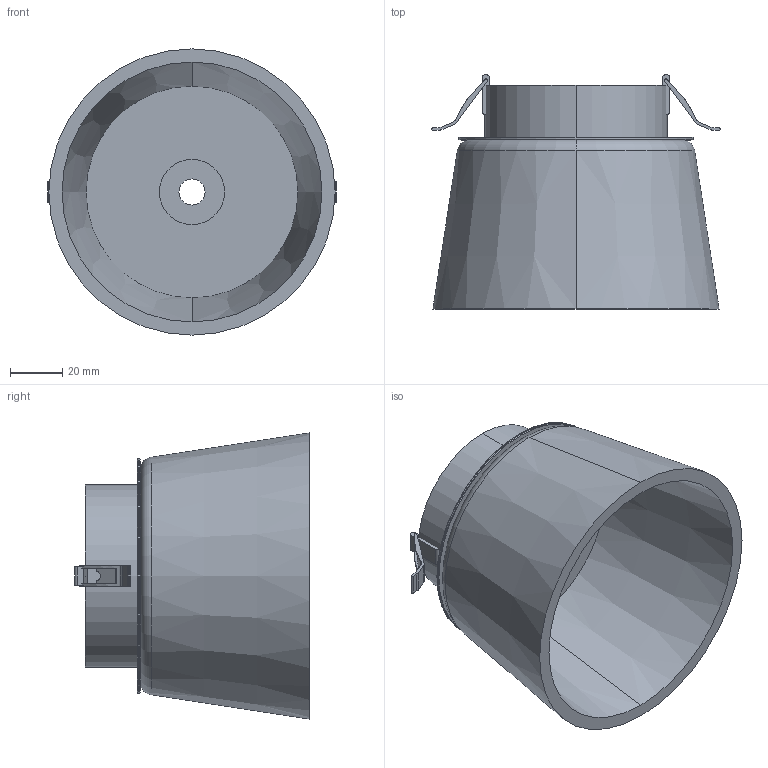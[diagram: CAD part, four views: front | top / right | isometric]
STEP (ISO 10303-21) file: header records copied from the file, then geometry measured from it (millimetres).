
FILE_DESCRIPTION (( 'STEP AP214' ), '1' );
FILE_NAME ('CUP_T0329.STEP', '2026-04-22T13:25:17', ( '' ), ( '' ), 'SwSTEP 2.0', 'SolidWorks 2023', '' );
FILE_SCHEMA (( 'AUTOMOTIVE_DESIGN' ));
Length unit declared in the file: millimetre
Products named in the file (3): CUP_T0329; EP1279
Assembly tree (2 placements, depth 2):
  CUP_T0329
    CUP_T0329
    EP1279
Bounding box: 110.86 x 90.1 x 110 mm (x, y, z)
Volume: 135193.3 mm3; surface area: 73204.7 mm2
Topology: 6 solids, 6 shells, 105 faces, 268 edges, 176 vertices
Faces by surface type: plane 55, cylinder 38, torus 6, cone 4, bspline 2
Entity records: 3386 total; most frequent: CARTESIAN_POINT 624, DIRECTION 576, ORIENTED_EDGE 536, EDGE_CURVE 268, AXIS2_PLACEMENT_3D 208, VERTEX_POINT 176, LINE 160, VECTOR 160
